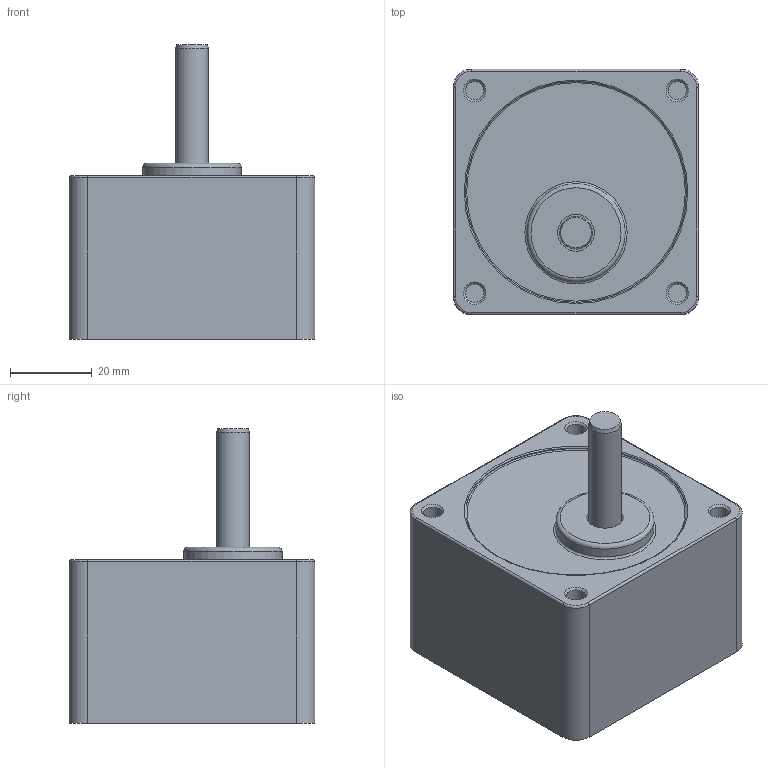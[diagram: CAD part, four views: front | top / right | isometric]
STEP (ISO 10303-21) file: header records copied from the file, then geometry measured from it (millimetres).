
FILE_DESCRIPTION((''),'2;1');
FILE_NAME('D:\STP파일\GEAR HEAD\6W\S6SA20~250.stp','2013-05-20T19:07:02',('leebh'),(''),'Autodesk Inventor 2011','Autodesk Inventor 2011','');
FILE_SCHEMA(('AUTOMOTIVE_DESIGN { 1 0 10303 214 1 1 1 1 }'));
Length unit declared in the file: millimetre
Products named in the file (1): S9I90G-T1
Bounding box: 60 x 60 x 72 mm (x, y, z)
Volume: 131523.5 mm3; surface area: 20384.8 mm2
Topology: 1 solids, 1 shells, 47 faces, 88 edges, 53 vertices
Faces by surface type: cylinder 18, plane 16, torus 8, cone 5
Full cylindrical faces by diameter (mm): 4.5 x4, 6 x1, 8 x1, 9 x1, 24 x1, 53.997 x1, 54 x1
Entity records: 1106 total; most frequent: DIRECTION 214, CARTESIAN_POINT 170, ORIENTED_EDGE 138, AXIS2_PLACEMENT_3D 97, EDGE_LOOP 76, EDGE_CURVE 69, VERTEX_POINT 53, CIRCLE 49
